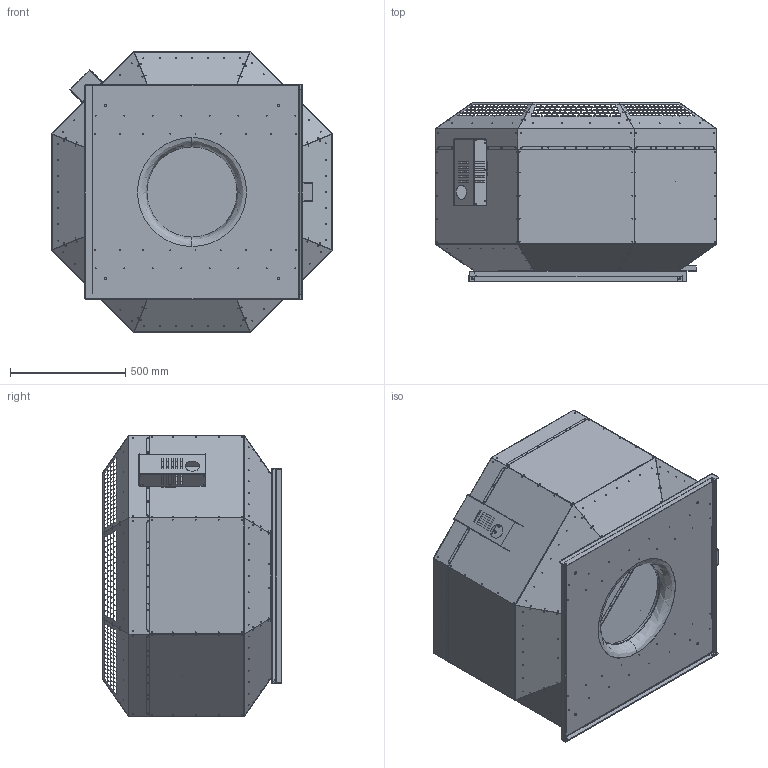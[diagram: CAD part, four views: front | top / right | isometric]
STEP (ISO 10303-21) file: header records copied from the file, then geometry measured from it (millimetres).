
FILE_DESCRIPTION (( 'STEP AP203' ), '1' );
FILE_NAME ('145044-01_DVNI630D430_step.step', '2018-07-18T11:08:45', ( '' ), ( '' ), 'SwSTEP 2.0', 'SolidWorks 2017', '' );
FILE_SCHEMA (( 'CONFIG_CONTROL_DESIGN' ));
Products named in the file (1): 145044-01_DVNI630D430_step
Bounding box: 1218 x 777.49 x 1218 mm (x, y, z)
Surface area: 10077298.9 mm2 (no closed solid volume)
Topology: 0 solids, 33 shells, 1719 faces, 15259 edges, 12932 vertices
Faces by surface type: plane 1412, cylinder 297, bspline 8, torus 2
Entity records: 146734 total; most frequent: CARTESIAN_POINT 33282, DIRECTION 20724, ORIENTED_EDGE 18702, EDGE_CURVE 15259, VERTEX_POINT 12932, VECTOR 12902, LINE 12902, EDGE_LOOP 5107
